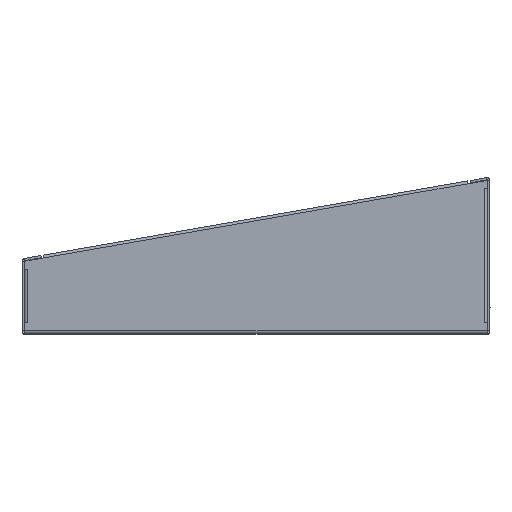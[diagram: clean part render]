
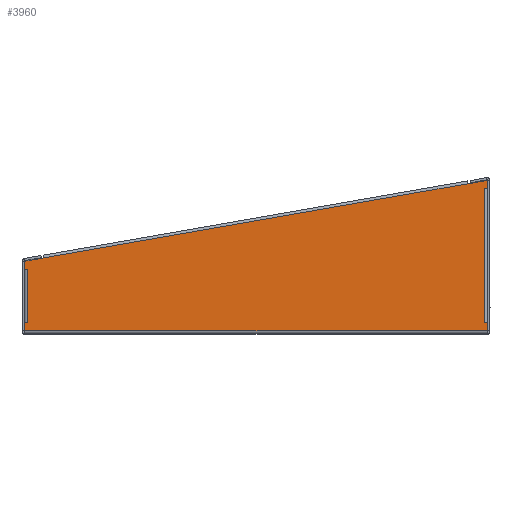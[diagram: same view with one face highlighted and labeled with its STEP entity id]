
A CAD part, top view. The second image highlights one B-rep face of the part: STEP entity #3960.
In plain terms, the highlighted planar face has unit normal (0, 0, 1).
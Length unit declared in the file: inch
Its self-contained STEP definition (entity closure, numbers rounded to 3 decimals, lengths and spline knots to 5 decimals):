
#4 = EDGE_CURVE ( 'NONE', #1947, #770, #5206, .T. ) ;
#43 = LINE ( 'NONE', #2283, #5080 ) ;
#220 = DIRECTION ( 'NONE',  ( -1., 0., 0. ) ) ;
#248 = DIRECTION ( 'NONE',  ( -1., 0., 0. ) ) ;
#296 = VECTOR ( 'NONE', #1950, 39.37008 ) ;
#324 = EDGE_CURVE ( 'NONE', #5107, #3245, #748, .T. ) ;
#325 = LINE ( 'NONE', #1110, #4015 ) ;
#326 = VECTOR ( 'NONE', #5441, 39.37008 ) ;
#401 = ORIENTED_EDGE ( 'NONE', *, *, #5820, .F. ) ;
#456 = CARTESIAN_POINT ( 'NONE',  ( -7.071, 1.92007, 7.195 ) ) ;
#581 = VERTEX_POINT ( 'NONE', #3234 ) ;
#595 = CARTESIAN_POINT ( 'NONE',  ( 7.145, 4.669, 7.195 ) ) ;
#725 = CARTESIAN_POINT ( 'NONE',  ( 6.5538, 4.56663, 7.195 ) ) ;
#748 = LINE ( 'NONE', #1083, #4282 ) ;
#764 = CARTESIAN_POINT ( 'NONE',  ( -7.145, 0.019, 7.195 ) ) ;
#770 = VERTEX_POINT ( 'NONE', #2224 ) ;
#785 = DIRECTION ( 'NONE',  ( 0.172, -0.985, 0. ) ) ;
#799 = VERTEX_POINT ( 'NONE', #1086 ) ;
#891 = DIRECTION ( 'NONE',  ( 0.985, 0.172, 0. ) ) ;
#976 = VERTEX_POINT ( 'NONE', #3969 ) ;
#983 = CARTESIAN_POINT ( 'NONE',  ( 7.0705, 0.269, 7.195 ) ) ;
#1038 = CARTESIAN_POINT ( 'NONE',  ( 7.0705, 4.419, 7.195 ) ) ;
#1043 = EDGE_CURVE ( 'NONE', #4481, #976, #3773, .T. ) ;
#1083 = CARTESIAN_POINT ( 'NONE',  ( 0., 1.92007, 7.195 ) ) ;
#1086 = CARTESIAN_POINT ( 'NONE',  ( -7.145, 0.269, 7.195 ) ) ;
#1090 = ORIENTED_EDGE ( 'NONE', *, *, #2465, .F. ) ;
#1110 = CARTESIAN_POINT ( 'NONE',  ( -7.145, 0., 7.195 ) ) ;
#1121 = AXIS2_PLACEMENT_3D ( 'NONE', #5301, #1651, #4868 ) ;
#1299 = CARTESIAN_POINT ( 'NONE',  ( 0., 0.019, 7.195 ) ) ;
#1370 = ORIENTED_EDGE ( 'NONE', *, *, #1043, .T. ) ;
#1389 = VECTOR ( 'NONE', #1907, 39.37008 ) ;
#1419 = EDGE_CURVE ( 'NONE', #4112, #799, #2708, .T. ) ;
#1431 = VECTOR ( 'NONE', #891, 39.37008 ) ;
#1459 = ORIENTED_EDGE ( 'NONE', *, *, #1419, .T. ) ;
#1489 = EDGE_CURVE ( 'NONE', #770, #5561, #5775, .T. ) ;
#1643 = EDGE_CURVE ( 'NONE', #1896, #1947, #3708, .T. ) ;
#1651 = DIRECTION ( 'NONE',  ( 0., 0., 1. ) ) ;
#1685 = ORIENTED_EDGE ( 'NONE', *, *, #4079, .T. ) ;
#1738 = CARTESIAN_POINT ( 'NONE',  ( 7.145, 0.019, 7.195 ) ) ;
#1751 = VERTEX_POINT ( 'NONE', #595 ) ;
#1773 = CARTESIAN_POINT ( 'NONE',  ( -7.145, 0., 7.195 ) ) ;
#1791 = CARTESIAN_POINT ( 'NONE',  ( 7.145, 0., 7.195 ) ) ;
#1858 = LINE ( 'NONE', #1773, #326 ) ;
#1896 = VERTEX_POINT ( 'NONE', #764 ) ;
#1907 = DIRECTION ( 'NONE',  ( 0., 1., 0. ) ) ;
#1913 = EDGE_CURVE ( 'NONE', #4481, #5669, #3478, .T. ) ;
#1947 = VERTEX_POINT ( 'NONE', #1738 ) ;
#1950 = DIRECTION ( 'NONE',  ( 1., 0., 0. ) ) ;
#2035 = ORIENTED_EDGE ( 'NONE', *, *, #324, .T. ) ;
#2061 = EDGE_CURVE ( 'NONE', #5561, #2113, #4906, .T. ) ;
#2113 = VERTEX_POINT ( 'NONE', #1038 ) ;
#2123 = VECTOR ( 'NONE', #248, 39.37008 ) ;
#2156 = CARTESIAN_POINT ( 'NONE',  ( -7.071, 1.92007, 7.195 ) ) ;
#2167 = CARTESIAN_POINT ( 'NONE',  ( 7.13421, 1.24757, 7.195 ) ) ;
#2224 = CARTESIAN_POINT ( 'NONE',  ( 7.145, 0.269, 7.195 ) ) ;
#2283 = CARTESIAN_POINT ( 'NONE',  ( -0.58024, 3.31807, 7.195 ) ) ;
#2284 = DIRECTION ( 'NONE',  ( 0., 1., 0. ) ) ;
#2377 = ORIENTED_EDGE ( 'NONE', *, *, #3176, .F. ) ;
#2394 = ORIENTED_EDGE ( 'NONE', *, *, #2061, .T. ) ;
#2465 = EDGE_CURVE ( 'NONE', #4758, #976, #2556, .T. ) ;
#2512 = CARTESIAN_POINT ( 'NONE',  ( 0., 0.269, 7.195 ) ) ;
#2527 = ORIENTED_EDGE ( 'NONE', *, *, #2610, .T. ) ;
#2528 = CARTESIAN_POINT ( 'NONE',  ( 7.145, 0., 7.195 ) ) ;
#2555 = VECTOR ( 'NONE', #4454, 39.37008 ) ;
#2556 = LINE ( 'NONE', #5026, #4846 ) ;
#2610 = EDGE_CURVE ( 'NONE', #2113, #4823, #2908, .T. ) ;
#2656 = LINE ( 'NONE', #5939, #1431 ) ;
#2707 = EDGE_LOOP ( 'NONE', ( #3243, #3894, #2394, #2527, #5702, #401, #4536, #1370, #1090, #2377, #4840, #2035, #4607, #1459, #1685, #3463 ) ) ;
#2708 = LINE ( 'NONE', #2512, #3631 ) ;
#2734 = CARTESIAN_POINT ( 'NONE',  ( -7.071, 0.269, 7.195 ) ) ;
#2751 = DIRECTION ( 'NONE',  ( -0.172, 0.985, 0. ) ) ;
#2883 = DIRECTION ( 'NONE',  ( 1., 0., 0. ) ) ;
#2885 = CARTESIAN_POINT ( 'NONE',  ( 7.145, 4.419, 7.195 ) ) ;
#2908 = LINE ( 'NONE', #5154, #296 ) ;
#3012 = CARTESIAN_POINT ( 'NONE',  ( 0., 0.269, 7.195 ) ) ;
#3154 = CARTESIAN_POINT ( 'NONE',  ( 6.5538, 4.56663, 7.195 ) ) ;
#3176 = EDGE_CURVE ( 'NONE', #581, #4758, #2656, .T. ) ;
#3234 = CARTESIAN_POINT ( 'NONE',  ( -7.145, 2.17007, 7.195 ) ) ;
#3243 = ORIENTED_EDGE ( 'NONE', *, *, #4, .T. ) ;
#3245 = VERTEX_POINT ( 'NONE', #456 ) ;
#3289 = LINE ( 'NONE', #2156, #5432 ) ;
#3300 = CARTESIAN_POINT ( 'NONE',  ( -7.145, 1.92007, 7.195 ) ) ;
#3366 = VECTOR ( 'NONE', #2284, 39.37008 ) ;
#3463 = ORIENTED_EDGE ( 'NONE', *, *, #1643, .T. ) ;
#3478 = LINE ( 'NONE', #2167, #4553 ) ;
#3487 = EDGE_CURVE ( 'NONE', #4823, #1751, #5957, .T. ) ;
#3538 = DIRECTION ( 'NONE',  ( 0., -1., 0. ) ) ;
#3554 = VECTOR ( 'NONE', #5898, 39.37008 ) ;
#3631 = VECTOR ( 'NONE', #220, 39.37008 ) ;
#3708 = LINE ( 'NONE', #1299, #3554 ) ;
#3726 = CARTESIAN_POINT ( 'NONE',  ( 6.55397, 4.56564, 7.195 ) ) ;
#3773 = LINE ( 'NONE', #3154, #2555 ) ;
#3894 = ORIENTED_EDGE ( 'NONE', *, *, #1489, .T. ) ;
#3944 = DIRECTION ( 'NONE',  ( 0., 1., 0. ) ) ;
#3960 = ADVANCED_FACE ( 'NONE', ( #4872 ), #5739, .T. ) ;
#3969 = CARTESIAN_POINT ( 'NONE',  ( -6.56399, 2.27269, 7.195 ) ) ;
#4008 = VECTOR ( 'NONE', #3944, 39.37008 ) ;
#4015 = VECTOR ( 'NONE', #4331, 39.37008 ) ;
#4079 = EDGE_CURVE ( 'NONE', #799, #1896, #1858, .T. ) ;
#4112 = VERTEX_POINT ( 'NONE', #2734 ) ;
#4282 = VECTOR ( 'NONE', #2883, 39.37008 ) ;
#4331 = DIRECTION ( 'NONE',  ( 0., -1., 0. ) ) ;
#4454 = DIRECTION ( 'NONE',  ( -0.985, -0.172, 0. ) ) ;
#4481 = VERTEX_POINT ( 'NONE', #725 ) ;
#4536 = ORIENTED_EDGE ( 'NONE', *, *, #1913, .F. ) ;
#4553 = VECTOR ( 'NONE', #785, 39.37008 ) ;
#4556 = DIRECTION ( 'NONE',  ( 0.985, 0.172, 0. ) ) ;
#4607 = ORIENTED_EDGE ( 'NONE', *, *, #5034, .T. ) ;
#4758 = VERTEX_POINT ( 'NONE', #5973 ) ;
#4823 = VERTEX_POINT ( 'NONE', #2885 ) ;
#4840 = ORIENTED_EDGE ( 'NONE', *, *, #4879, .T. ) ;
#4846 = VECTOR ( 'NONE', #2751, 39.37008 ) ;
#4868 = DIRECTION ( 'NONE',  ( 1., 0., 0. ) ) ;
#4872 = FACE_OUTER_BOUND ( 'NONE', #2707, .T. ) ;
#4879 = EDGE_CURVE ( 'NONE', #581, #5107, #325, .T. ) ;
#4906 = LINE ( 'NONE', #983, #1389 ) ;
#5026 = CARTESIAN_POINT ( 'NONE',  ( -5.98358, -1.04636, 7.195 ) ) ;
#5034 = EDGE_CURVE ( 'NONE', #3245, #4112, #3289, .T. ) ;
#5080 = VECTOR ( 'NONE', #4556, 39.37008 ) ;
#5107 = VERTEX_POINT ( 'NONE', #3300 ) ;
#5154 = CARTESIAN_POINT ( 'NONE',  ( 0., 4.419, 7.195 ) ) ;
#5206 = LINE ( 'NONE', #2528, #4008 ) ;
#5301 = CARTESIAN_POINT ( 'NONE',  ( 0., 0., 7.195 ) ) ;
#5432 = VECTOR ( 'NONE', #3538, 39.37008 ) ;
#5441 = DIRECTION ( 'NONE',  ( 0., -1., 0. ) ) ;
#5561 = VERTEX_POINT ( 'NONE', #5944 ) ;
#5669 = VERTEX_POINT ( 'NONE', #3726 ) ;
#5702 = ORIENTED_EDGE ( 'NONE', *, *, #3487, .T. ) ;
#5739 = PLANE ( 'NONE',  #1121 ) ;
#5775 = LINE ( 'NONE', #3012, #2123 ) ;
#5820 = EDGE_CURVE ( 'NONE', #5669, #1751, #43, .T. ) ;
#5898 = DIRECTION ( 'NONE',  ( 1., 0., 0. ) ) ;
#5939 = CARTESIAN_POINT ( 'NONE',  ( -0.58024, 3.31807, 7.195 ) ) ;
#5944 = CARTESIAN_POINT ( 'NONE',  ( 7.0705, 0.269, 7.195 ) ) ;
#5957 = LINE ( 'NONE', #1791, #3366 ) ;
#5973 = CARTESIAN_POINT ( 'NONE',  ( -6.56382, 2.2717, 7.195 ) ) ;
